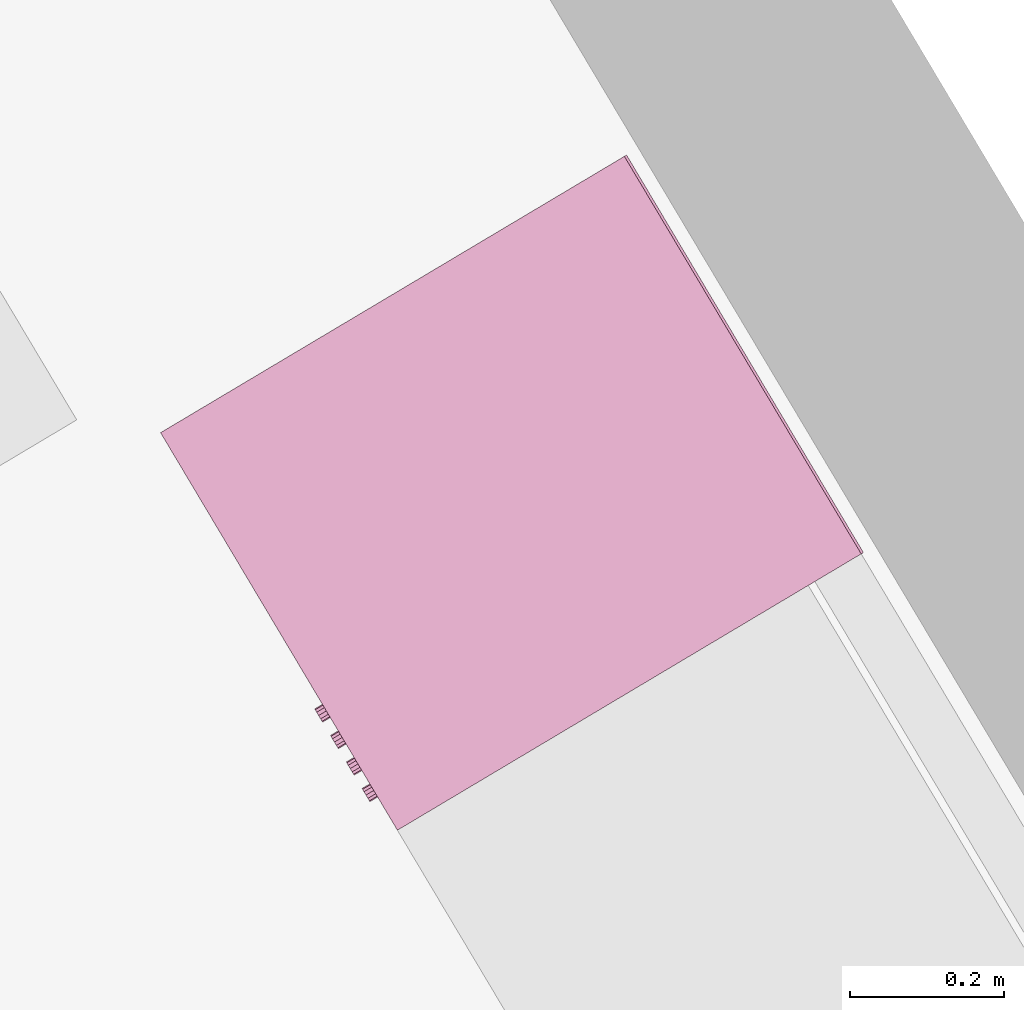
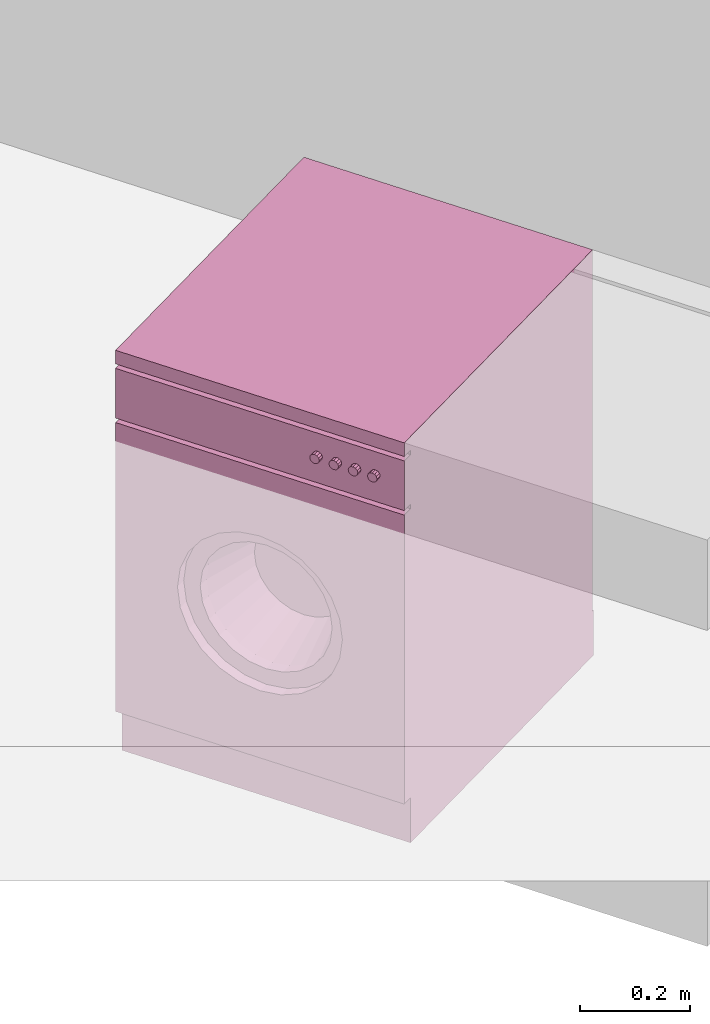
# One storey, part 168 of 195: 1 furnishing.
"""IFC2X3 building model written with IfcOpenShell, lengths in metres."""

from ifc_helpers import new_model, entity, si_unit, converted_unit, derived_unit, money_unit, direction, frame, origin_with_axes, place, context, subcontext, project, spatial, open_shell, faceted_brep, surface_model, type_object, element, save


model = new_model("IFC2X3")

# Units and contexts
model_context = context("Model", 3, precision=1e-05, world=origin_with_axes(), true_north=direction((0.0, 1.0)))
body_context = subcontext(model_context, "Body", "Model", "MODEL_VIEW")
ifc_project = project(units=[si_unit("LENGTHUNIT", "METRE"), si_unit("AREAUNIT", "SQUARE_METRE"), si_unit("VOLUMEUNIT", "CUBIC_METRE"), converted_unit("PLANEANGLEUNIT", "DEGREE", entity("IfcPlaneAngleMeasure", 0.0174532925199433), si_unit("PLANEANGLEUNIT", "RADIAN"), dimensions=[0, 0, 0, 0, 0, 0, 0]), money_unit("CHF"), converted_unit("TIMEUNIT", "Year", entity("IfcTimeMeasure", 31557600.0), si_unit("TIMEUNIT", "SECOND"), dimensions=[0, 0, 1, 0, 0, 0, 0]), si_unit("MASSUNIT", "GRAM", prefix="KILO"), si_unit("THERMODYNAMICTEMPERATUREUNIT", "DEGREE_CELSIUS"), si_unit("LUMINOUSINTENSITYUNIT", "LUMEN"), si_unit("ENERGYUNIT", "JOULE", prefix="MEGA"), derived_unit("THERMALCONDUCTANCEUNIT", [(si_unit("POWERUNIT", "WATT"), 1), (si_unit("LENGTHUNIT", "METRE"), -1), (si_unit("THERMODYNAMICTEMPERATUREUNIT", "KELVIN"), -1)]), derived_unit("SPECIFICHEATCAPACITYUNIT", [(si_unit("ENERGYUNIT", "JOULE"), 1), (si_unit("MASSUNIT", "GRAM", prefix="KILO"), -1), (si_unit("THERMODYNAMICTEMPERATUREUNIT", "KELVIN"), -1)]), derived_unit("MASSDENSITYUNIT", [(si_unit("MASSUNIT", "GRAM", prefix="KILO"), 1), (si_unit("VOLUMEUNIT", "CUBIC_METRE"), -1)])], contexts=[model_context])

# Site, building, storey
site_placement = place(None, origin_with_axes())
site = spatial("IfcSite", under=ifc_project, at=site_placement, Name="Site", CompositionType="ELEMENT")
building_placement = place(site_placement, origin_with_axes())
building = spatial("IfcBuilding", under=site, at=building_placement, Name="Bâtiment", CompositionType="ELEMENT")
storey_placement = place(building_placement, origin_with_axes())
storey = spatial("IfcBuildingStorey", under=building, at=storey_placement, Name="rdc", CompositionType="ELEMENT", Elevation=0.0)

# Furnishing
furnishing_element_type = type_object("IfcFurnishingElementType", Name="Machine à laver")
furnishing_placement = place(storey_placement, frame((9548.369872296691, -1050.986734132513, 57.0), z_axis=(0.0, 0.0, 1.0), x_axis=(0.5118298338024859, -0.8590868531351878, 0.0)))
element("IfcFurnishingElement", 1, at=furnishing_placement, inside=storey, type_object=furnishing_element_type, Name="Obj.-019", context=body_context, shape_type="SurfaceModel", body=[
    faceted_brep([(0.0, 0.02333333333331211, 0.1000000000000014), (0.0, 0.0, 0.1000000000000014), (-0.6000000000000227, 0.0, 0.1000000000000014), (-0.599999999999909, 0.0233333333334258, 0.1000000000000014), (0.0, 0.02333333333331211, 0.740000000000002), (0.0, 0.0, 0.740000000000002), (-0.6000000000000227, 0.0, 0.740000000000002), (-0.4714285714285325, 0.0, 0.4200000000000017), (-0.4655872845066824, 0.0, 0.4643689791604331), (-0.4484614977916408, 0.0, 0.5057142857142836), (-0.4212183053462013, 0.0, 0.5412183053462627), (-0.3857142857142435, 0.0, 0.5684614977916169), (-0.3443689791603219, 0.0, 0.5855872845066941), (-0.2999999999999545, 0.0, 0.5914285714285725), (-0.2556310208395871, 0.0, 0.5855872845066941), (-0.2142857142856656, 0.0, 0.5684614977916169), (-0.1787816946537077, 0.0, 0.5412183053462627), (-0.1515385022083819, 0.0, 0.5057142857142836), (-0.1344127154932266, 0.0, 0.4643689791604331), (-0.1285714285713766, 0.0, 0.4200000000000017), (-0.1344127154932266, 0.0, 0.3756310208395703), (-0.1515385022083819, 0.0, 0.3342857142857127), (-0.1787816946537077, 0.0, 0.2987816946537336), (-0.2142857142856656, 0.0, 0.2715385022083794), (-0.2556310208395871, 0.0, 0.2544127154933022), (-0.2999999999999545, 0.0, 0.2485714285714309), (-0.3443689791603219, 0.0, 0.2544127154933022), (-0.3857142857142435, 0.0, 0.2715385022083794), (-0.4212183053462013, 0.0, 0.2987816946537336), (-0.4484614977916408, 0.0, 0.3342857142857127), (-0.4655872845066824, 0.0, 0.3756310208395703), (-0.599999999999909, 0.0233333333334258, 0.740000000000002), (-0.4714285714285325, 0.0233333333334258, 0.4200000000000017), (-0.4655872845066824, 0.02333333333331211, 0.3756310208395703), (-0.4484614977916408, 0.02333333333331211, 0.3342857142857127), (-0.4212183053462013, 0.0233333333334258, 0.2987816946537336), (-0.3857142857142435, 0.02333333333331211, 0.2715385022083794), (-0.3443689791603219, 0.02333333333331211, 0.2544127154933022), (-0.2999999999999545, 0.0233333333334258, 0.2485714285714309), (-0.2556310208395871, 0.0233333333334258, 0.2544127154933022), (-0.2142857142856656, 0.0233333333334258, 0.2715385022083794), (-0.1787816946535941, 0.0233333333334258, 0.2987816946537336), (-0.1515385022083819, 0.0233333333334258, 0.3342857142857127), (-0.1344127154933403, 0.0233333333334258, 0.3756310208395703), (-0.1285714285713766, 0.02333333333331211, 0.4200000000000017), (-0.1344127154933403, 0.0233333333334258, 0.4643689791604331), (-0.1515385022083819, 0.0233333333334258, 0.5057142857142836), (-0.1787816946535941, 0.0233333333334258, 0.5412183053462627), (-0.2142857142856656, 0.0233333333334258, 0.5684614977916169), (-0.2556310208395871, 0.0233333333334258, 0.5855872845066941), (-0.2999999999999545, 0.0233333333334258, 0.5914285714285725), (-0.3443689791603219, 0.02333333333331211, 0.5855872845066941), (-0.3857142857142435, 0.02333333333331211, 0.5684614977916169), (-0.4212183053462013, 0.0233333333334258, 0.5412183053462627), (-0.4484614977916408, 0.02333333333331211, 0.5057142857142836), (-0.4655872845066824, 0.02333333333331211, 0.4643689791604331)], [[[0, 1, 2, 3]], [[4, 5, 1, 0]], [[1, 5, 6, 2], [7, 8, 9, 10, 11, 12, 13, 14, 15, 16, 17, 18, 19, 20, 21, 22, 23, 24, 25, 26, 27, 28, 29, 30]], [[3, 2, 6, 31]], [[0, 3, 31, 4], [32, 33, 34, 35, 36, 37, 38, 39, 40, 41, 42, 43, 44, 45, 46, 47, 48, 49, 50, 51, 52, 53, 54, 55]], [[31, 6, 5, 4]], [[55, 8, 7, 32]], [[54, 9, 8, 55]], [[53, 10, 9, 54]], [[52, 11, 10, 53]], [[51, 12, 11, 52]], [[50, 13, 12, 51]], [[49, 14, 13, 50]], [[48, 15, 14, 49]], [[47, 16, 15, 48]], [[46, 17, 16, 47]], [[45, 18, 17, 46]], [[44, 19, 18, 45]], [[43, 20, 19, 44]], [[42, 21, 20, 43]], [[41, 22, 21, 42]], [[40, 23, 22, 41]], [[39, 24, 23, 40]], [[38, 25, 24, 39]], [[37, 26, 25, 38]], [[36, 27, 26, 37]], [[35, 28, 27, 36]], [[34, 29, 28, 35]], [[33, 30, 29, 34]], [[32, 7, 30, 33]]]),
    faceted_brep([(-0.4714285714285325, 0.04666666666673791, 0.4200000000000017), (-0.4714285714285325, 0.0233333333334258, 0.4200000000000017), (-0.4655872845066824, 0.02333333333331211, 0.4643689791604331), (-0.4655872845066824, 0.04666666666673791, 0.4643689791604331), (-0.4655872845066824, 0.04666666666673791, 0.3756310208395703), (-0.4655872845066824, 0.02333333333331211, 0.3756310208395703), (-0.4484614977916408, 0.02333333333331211, 0.3342857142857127), (-0.4212183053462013, 0.0233333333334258, 0.2987816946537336), (-0.3857142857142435, 0.02333333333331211, 0.2715385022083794), (-0.3443689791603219, 0.02333333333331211, 0.2544127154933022), (-0.2999999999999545, 0.0233333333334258, 0.2485714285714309), (-0.2556310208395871, 0.0233333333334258, 0.2544127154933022), (-0.2142857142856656, 0.0233333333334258, 0.2715385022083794), (-0.1787816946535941, 0.0233333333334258, 0.2987816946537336), (-0.1515385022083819, 0.0233333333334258, 0.3342857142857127), (-0.1344127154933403, 0.0233333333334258, 0.3756310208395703), (-0.1285714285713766, 0.02333333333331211, 0.4200000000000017), (-0.1344127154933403, 0.0233333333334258, 0.4643689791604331), (-0.1515385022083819, 0.0233333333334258, 0.5057142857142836), (-0.1787816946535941, 0.0233333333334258, 0.5412183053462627), (-0.2142857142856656, 0.0233333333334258, 0.5684614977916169), (-0.2556310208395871, 0.0233333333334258, 0.5855872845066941), (-0.2999999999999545, 0.0233333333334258, 0.5914285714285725), (-0.3443689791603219, 0.02333333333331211, 0.5855872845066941), (-0.3857142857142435, 0.02333333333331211, 0.5684614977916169), (-0.4212183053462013, 0.0233333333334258, 0.5412183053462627), (-0.4484614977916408, 0.02333333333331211, 0.5057142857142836), (-0.4371428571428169, 0.0233333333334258, 0.4200000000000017), (-0.4324698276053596, 0.0233333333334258, 0.4554951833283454), (-0.4187691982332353, 0.0233333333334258, 0.4885714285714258), (-0.3969746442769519, 0.0233333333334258, 0.5169746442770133), (-0.3685714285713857, 0.0233333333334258, 0.5387691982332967), (-0.3354951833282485, 0.0233333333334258, 0.552469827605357), (-0.2999999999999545, 0.0233333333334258, 0.5571428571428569), (-0.2645048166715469, 0.02333333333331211, 0.552469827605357), (-0.2314285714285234, 0.0233333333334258, 0.5387691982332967), (-0.2030253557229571, 0.02333333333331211, 0.5169746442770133), (-0.1812308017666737, 0.02333333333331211, 0.4885714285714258), (-0.1675301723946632, 0.02333333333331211, 0.4554951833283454), (-0.1628571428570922, 0.02333333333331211, 0.4200000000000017), (-0.1675301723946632, 0.02333333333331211, 0.3845048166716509), (-0.1812308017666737, 0.02333333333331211, 0.3514285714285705), (-0.2030253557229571, 0.02333333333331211, 0.3230253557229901), (-0.2314285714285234, 0.0233333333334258, 0.3012308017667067), (-0.2645048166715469, 0.02333333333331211, 0.2875301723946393), (-0.2999999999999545, 0.0233333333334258, 0.2828571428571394), (-0.3354951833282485, 0.0233333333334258, 0.2875301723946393), (-0.3685714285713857, 0.0233333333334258, 0.3012308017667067), (-0.3969746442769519, 0.0233333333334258, 0.3230253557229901), (-0.4187691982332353, 0.0233333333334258, 0.3514285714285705), (-0.4324698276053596, 0.0233333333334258, 0.3845048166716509), (-0.4484614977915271, 0.04666666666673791, 0.5057142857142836), (-0.4212183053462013, 0.04666666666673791, 0.5412183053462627), (-0.3857142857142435, 0.04666666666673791, 0.5684614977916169), (-0.3443689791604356, 0.04666666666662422, 0.5855872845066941), (-0.2999999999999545, 0.04666666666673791, 0.5914285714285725), (-0.2556310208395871, 0.04666666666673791, 0.5855872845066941), (-0.2142857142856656, 0.04666666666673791, 0.5684614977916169), (-0.1787816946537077, 0.04666666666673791, 0.5412183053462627), (-0.1515385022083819, 0.04666666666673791, 0.5057142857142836), (-0.1344127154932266, 0.04666666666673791, 0.4643689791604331), (-0.1285714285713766, 0.04666666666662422, 0.4200000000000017), (-0.1344127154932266, 0.04666666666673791, 0.3756310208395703), (-0.1515385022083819, 0.04666666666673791, 0.3342857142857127), (-0.1787816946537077, 0.04666666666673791, 0.2987816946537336), (-0.2142857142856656, 0.04666666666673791, 0.2715385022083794), (-0.2556310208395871, 0.04666666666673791, 0.2544127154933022), (-0.2999999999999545, 0.04666666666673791, 0.2485714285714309), (-0.3443689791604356, 0.04666666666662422, 0.2544127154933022), (-0.3857142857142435, 0.04666666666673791, 0.2715385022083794), (-0.4212183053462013, 0.04666666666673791, 0.2987816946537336), (-0.4484614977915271, 0.04666666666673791, 0.3342857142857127), (-0.4371428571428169, 0.04666666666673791, 0.4200000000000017), (-0.4324698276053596, 0.04666666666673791, 0.3845048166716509), (-0.4187691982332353, 0.04666666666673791, 0.3514285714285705), (-0.3969746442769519, 0.04666666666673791, 0.3230253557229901), (-0.3685714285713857, 0.04666666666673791, 0.3012308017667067), (-0.3354951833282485, 0.0466666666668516, 0.2875301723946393), (-0.2999999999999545, 0.04666666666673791, 0.2828571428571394), (-0.2645048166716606, 0.04666666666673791, 0.2875301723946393), (-0.2314285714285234, 0.04666666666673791, 0.3012308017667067), (-0.2030253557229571, 0.04666666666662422, 0.3230253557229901), (-0.1812308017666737, 0.04666666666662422, 0.3514285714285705), (-0.1675301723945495, 0.04666666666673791, 0.3845048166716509), (-0.1628571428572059, 0.04666666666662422, 0.4200000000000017), (-0.1675301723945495, 0.04666666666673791, 0.4554951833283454), (-0.1812308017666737, 0.04666666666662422, 0.4885714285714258), (-0.2030253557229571, 0.04666666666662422, 0.5169746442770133), (-0.2314285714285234, 0.04666666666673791, 0.5387691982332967), (-0.2645048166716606, 0.04666666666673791, 0.552469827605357), (-0.2999999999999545, 0.04666666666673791, 0.5571428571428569), (-0.3354951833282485, 0.0466666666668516, 0.552469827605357), (-0.3685714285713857, 0.04666666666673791, 0.5387691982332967), (-0.3969746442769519, 0.04666666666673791, 0.5169746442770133), (-0.4187691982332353, 0.04666666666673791, 0.4885714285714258), (-0.4324698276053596, 0.04666666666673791, 0.4554951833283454)], [[[0, 1, 2, 3]], [[4, 5, 1, 0]], [[1, 5, 6, 7, 8, 9, 10, 11, 12, 13, 14, 15, 16, 17, 18, 19, 20, 21, 22, 23, 24, 25, 26, 2], [27, 28, 29, 30, 31, 32, 33, 34, 35, 36, 37, 38, 39, 40, 41, 42, 43, 44, 45, 46, 47, 48, 49, 50]], [[3, 2, 26, 51]], [[0, 3, 51, 52, 53, 54, 55, 56, 57, 58, 59, 60, 61, 62, 63, 64, 65, 66, 67, 68, 69, 70, 71, 4], [72, 73, 74, 75, 76, 77, 78, 79, 80, 81, 82, 83, 84, 85, 86, 87, 88, 89, 90, 91, 92, 93, 94, 95]], [[71, 6, 5, 4]], [[70, 7, 6, 71]], [[69, 8, 7, 70]], [[68, 9, 8, 69]], [[67, 10, 9, 68]], [[66, 11, 10, 67]], [[65, 12, 11, 66]], [[64, 13, 12, 65]], [[63, 14, 13, 64]], [[62, 15, 14, 63]], [[61, 16, 15, 62]], [[60, 17, 16, 61]], [[59, 18, 17, 60]], [[58, 19, 18, 59]], [[57, 20, 19, 58]], [[56, 21, 20, 57]], [[55, 22, 21, 56]], [[54, 23, 22, 55]], [[53, 24, 23, 54]], [[52, 25, 24, 53]], [[51, 26, 25, 52]], [[95, 28, 27, 72]], [[94, 29, 28, 95]], [[93, 30, 29, 94]], [[92, 31, 30, 93]], [[91, 32, 31, 92]], [[90, 33, 32, 91]], [[89, 34, 33, 90]], [[88, 35, 34, 89]], [[87, 36, 35, 88]], [[86, 37, 36, 87]], [[85, 38, 37, 86]], [[84, 39, 38, 85]], [[83, 40, 39, 84]], [[82, 41, 40, 83]], [[81, 42, 41, 82]], [[80, 43, 42, 81]], [[79, 44, 43, 80]], [[78, 45, 44, 79]], [[77, 46, 45, 78]], [[76, 47, 46, 77]], [[75, 48, 47, 76]], [[74, 49, 48, 75]], [[73, 50, 49, 74]], [[72, 27, 50, 73]]]),
    surface_model("IfcShellBasedSurfaceModel", [(-0.2645048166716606, 0.04666666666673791, 0.552469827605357), (-0.2733786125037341, 0.1633333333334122, 0.51935237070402), (-0.2999999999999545, 0.1633333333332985, 0.5228571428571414), (-0.2999999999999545, 0.04666666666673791, 0.5571428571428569), (-0.2314285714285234, 0.04666666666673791, 0.5387691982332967), (-0.2485714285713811, 0.1633333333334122, 0.5090768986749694), (-0.2272690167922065, 0.1633333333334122, 0.4927309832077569), (-0.2109231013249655, 0.1633333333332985, 0.471428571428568), (-0.200647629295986, 0.1633333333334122, 0.4466213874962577), (-0.1971428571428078, 0.1633333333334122, 0.4200000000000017), (-0.200647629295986, 0.1633333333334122, 0.3933786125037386), (-0.2109231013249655, 0.1633333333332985, 0.3685714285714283), (-0.2272690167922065, 0.1633333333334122, 0.3472690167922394), (-0.2485714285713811, 0.1633333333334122, 0.3309231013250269), (-0.2733786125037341, 0.1633333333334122, 0.3206476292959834), (-0.2999999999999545, 0.1633333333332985, 0.317142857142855), (-0.326621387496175, 0.1633333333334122, 0.3206476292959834), (-0.3514285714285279, 0.1633333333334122, 0.3309231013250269), (-0.3727309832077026, 0.1633333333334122, 0.3472690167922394), (-0.3890768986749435, 0.1633333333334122, 0.3685714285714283), (-0.399352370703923, 0.1633333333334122, 0.3933786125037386), (-0.4028571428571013, 0.1633333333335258, 0.4200000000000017), (-0.399352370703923, 0.1633333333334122, 0.4466213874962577), (-0.3890768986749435, 0.1633333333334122, 0.471428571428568), (-0.3727309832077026, 0.1633333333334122, 0.4927309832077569), (-0.3514285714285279, 0.1633333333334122, 0.5090768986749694), (-0.326621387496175, 0.1633333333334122, 0.51935237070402), (-0.3354951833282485, 0.0466666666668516, 0.552469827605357), (-0.2030253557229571, 0.04666666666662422, 0.5169746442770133), (-0.1812308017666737, 0.04666666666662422, 0.4885714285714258), (-0.1675301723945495, 0.04666666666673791, 0.4554951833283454), (-0.1628571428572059, 0.04666666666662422, 0.4200000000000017), (-0.1675301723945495, 0.04666666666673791, 0.3845048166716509), (-0.1812308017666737, 0.04666666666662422, 0.3514285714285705), (-0.2030253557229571, 0.04666666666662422, 0.3230253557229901), (-0.2314285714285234, 0.04666666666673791, 0.3012308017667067), (-0.2645048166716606, 0.04666666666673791, 0.2875301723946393), (-0.2999999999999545, 0.04666666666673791, 0.2828571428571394), (-0.3354951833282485, 0.0466666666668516, 0.2875301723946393), (-0.3685714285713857, 0.04666666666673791, 0.3012308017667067), (-0.3969746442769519, 0.04666666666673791, 0.3230253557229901), (-0.4187691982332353, 0.04666666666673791, 0.3514285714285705), (-0.4324698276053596, 0.04666666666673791, 0.3845048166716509), (-0.4371428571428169, 0.04666666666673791, 0.4200000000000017), (-0.4324698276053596, 0.04666666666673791, 0.4554951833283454), (-0.4187691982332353, 0.04666666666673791, 0.4885714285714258), (-0.3969746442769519, 0.04666666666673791, 0.5169746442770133), (-0.3685714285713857, 0.04666666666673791, 0.5387691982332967)], [open_shell([[[0, 1, 2, 3]], [[4, 5, 1, 0]], [[2, 1, 5, 6, 7, 8, 9, 10, 11, 12, 13, 14, 15, 16, 17, 18, 19, 20, 21, 22, 23, 24, 25, 26]], [[3, 2, 26, 27]], [[28, 6, 5, 4]], [[29, 7, 6, 28]], [[30, 8, 7, 29]], [[31, 9, 8, 30]], [[32, 10, 9, 31]], [[33, 11, 10, 32]], [[34, 12, 11, 33]], [[35, 13, 12, 34]], [[36, 14, 13, 35]], [[37, 15, 14, 36]], [[38, 16, 15, 37]], [[39, 17, 16, 38]], [[40, 18, 17, 39]], [[41, 19, 18, 40]], [[42, 20, 19, 41]], [[43, 21, 20, 42]], [[44, 22, 21, 43]], [[45, 23, 22, 44]], [[46, 24, 23, 45]], [[47, 25, 24, 46]], [[27, 26, 25, 47]]])]),
    surface_model("IfcShellBasedSurfaceModel", [(0.0, 0.02333333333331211, 0.1000000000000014), (0.0, 0.7000000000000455, 0.1000000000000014), (0.0, 0.7000000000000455, 0.8699999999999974), (0.0, 0.02333333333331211, 0.8699999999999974)], [open_shell([[[0, 1, 2, 3]]])]),
    surface_model("IfcShellBasedSurfaceModel", [(-0.599999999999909, 0.0233333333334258, 0.1000000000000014), (-0.599999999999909, 0.7000000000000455, 0.1000000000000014), (-0.599999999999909, 0.7000000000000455, 0.8699999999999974), (-0.599999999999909, 0.0233333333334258, 0.8699999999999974)], [open_shell([[[0, 1, 2, 3]]])]),
    surface_model("IfcShellBasedSurfaceModel", [(0.0, 0.7000000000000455, 0.1000000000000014), (-0.599999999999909, 0.7000000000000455, 0.1000000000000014), (-0.599999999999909, 0.7000000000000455, 0.8699999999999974), (0.0, 0.7000000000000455, 0.8699999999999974)], [open_shell([[[0, 1, 2, 3]]])]),
    faceted_brep([(0.0, 0.02333333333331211, 0.0), (0.0, 0.02333333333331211, 0.1000000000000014), (-0.599999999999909, 0.0233333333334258, 0.1000000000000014), (-0.599999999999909, 0.0233333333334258, 0.0), (0.0, 0.7033333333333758, 0.0), (0.0, 0.7033333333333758, 0.1000000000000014), (-0.6000000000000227, 0.7033333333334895, 0.1000000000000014), (-0.6000000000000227, 0.7033333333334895, 0.0)], [[[0, 1, 2, 3]], [[4, 5, 1, 0]], [[1, 5, 6, 2]], [[3, 2, 6, 7]], [[0, 3, 7, 4]], [[7, 6, 5, 4]]]),
    faceted_brep([(0.0, 0.02333333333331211, 0.75), (0.0, 0.0, 0.75), (-0.6000000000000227, 0.0, 0.75), (-0.599999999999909, 0.0233333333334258, 0.75), (0.0, 0.02333333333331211, 0.8599999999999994), (0.0, 0.0, 0.8599999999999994), (-0.6000000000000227, 0.0, 0.8599999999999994), (-0.599999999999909, 0.0233333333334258, 0.8599999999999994)], [[[0, 1, 2, 3]], [[4, 5, 1, 0]], [[1, 5, 6, 2]], [[3, 2, 6, 7]], [[0, 3, 7, 4]], [[7, 6, 5, 4]]]),
    surface_model("IfcShellBasedSurfaceModel", [(0.0, 0.02333333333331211, 0.7383333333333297), (-0.599999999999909, 0.0233333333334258, 0.7383333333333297), (-0.599999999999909, 0.0233333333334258, 0.8683333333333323), (0.0, 0.02333333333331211, 0.8683333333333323)], [open_shell([[[0, 1, 2, 3]]])]),
    faceted_brep([(0.0, 0.0, 0.8699999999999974), (0.0, 0.0, 0.8999999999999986), (-0.6000000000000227, 0.0, 0.8999999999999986), (-0.6000000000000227, 0.0, 0.8699999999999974), (0.0, 0.7000000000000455, 0.8699999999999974), (0.0, 0.7000000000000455, 0.8999999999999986), (-0.599999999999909, 0.7000000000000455, 0.8999999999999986), (-0.599999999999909, 0.7000000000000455, 0.8699999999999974)], [[[0, 1, 2, 3]], [[4, 5, 1, 0]], [[1, 5, 6, 2]], [[3, 2, 6, 7]], [[0, 3, 7, 4]], [[7, 6, 5, 4]]]),
    faceted_brep([(-0.06866025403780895, 0.0, 0.8049999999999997), (-0.06999999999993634, 0.0, 0.8100000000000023), (-0.06866025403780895, 0.0, 0.8149999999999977), (-0.06499999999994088, 0.0, 0.8186602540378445), (-0.05999999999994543, 0.0, 0.8200000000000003), (-0.05499999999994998, 0.0, 0.8186602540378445), (-0.05133974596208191, 0.0, 0.8149999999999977), (-0.04999999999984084, 0.0, 0.8100000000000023), (-0.05133974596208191, 0.0, 0.8049999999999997), (-0.05499999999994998, 0.0, 0.801339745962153), (-0.05999999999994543, 0.0, 0.7999999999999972), (-0.06499999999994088, 0.0, 0.801339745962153), (-0.06866025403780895, -0.01166666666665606, 0.8049999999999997), (-0.06999999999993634, -0.01166666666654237, 0.8100000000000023), (-0.06866025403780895, -0.01166666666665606, 0.8149999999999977), (-0.06499999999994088, -0.01166666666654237, 0.8186602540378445), (-0.05999999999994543, -0.01166666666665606, 0.8200000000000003), (-0.05499999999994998, -0.01166666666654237, 0.8186602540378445), (-0.05133974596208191, -0.01166666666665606, 0.8149999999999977), (-0.04999999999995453, -0.01166666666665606, 0.8100000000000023), (-0.05133974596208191, -0.01166666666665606, 0.8049999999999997), (-0.05499999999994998, -0.01166666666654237, 0.801339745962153), (-0.05999999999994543, -0.01166666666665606, 0.7999999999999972), (-0.06499999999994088, -0.01166666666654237, 0.801339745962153)], [[[0, 1, 2, 3, 4, 5, 6, 7, 8, 9, 10, 11]], [[0, 12, 13, 1]], [[1, 13, 14, 2]], [[2, 14, 15, 3]], [[3, 15, 16, 4]], [[4, 16, 17, 5]], [[5, 17, 18, 6]], [[6, 18, 19, 7]], [[7, 19, 20, 8]], [[8, 20, 21, 9]], [[9, 21, 22, 10]], [[10, 22, 23, 11]], [[11, 23, 12, 0]], [[12, 23, 22, 21, 20, 19, 18, 17, 16, 15, 14, 13]]]),
    faceted_brep([(-0.1086602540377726, 0.0, 0.8049999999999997), (-0.1099999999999, 0.0, 0.8100000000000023), (-0.1086602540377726, 0.0, 0.8149999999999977), (-0.1049999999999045, 0.0, 0.8186602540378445), (-0.09999999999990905, 0.0, 0.8200000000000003), (-0.0949999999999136, 0.0, 0.8186602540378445), (-0.09133974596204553, 0.0, 0.8149999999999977), (-0.08999999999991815, 0.0, 0.8100000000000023), (-0.09133974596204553, 0.0, 0.8049999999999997), (-0.0949999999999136, 0.0, 0.801339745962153), (-0.09999999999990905, 0.0, 0.7999999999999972), (-0.1049999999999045, 0.0, 0.801339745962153), (-0.1086602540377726, -0.01166666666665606, 0.8049999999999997), (-0.1100000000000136, -0.01166666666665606, 0.8100000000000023), (-0.1086602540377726, -0.01166666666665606, 0.8149999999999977), (-0.1050000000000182, -0.01166666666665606, 0.8186602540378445), (-0.09999999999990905, -0.01166666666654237, 0.8200000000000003), (-0.0949999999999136, -0.01166666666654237, 0.8186602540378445), (-0.09133974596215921, -0.01166666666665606, 0.8149999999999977), (-0.09000000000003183, -0.01166666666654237, 0.8100000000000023), (-0.09133974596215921, -0.01166666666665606, 0.8049999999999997), (-0.0949999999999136, -0.01166666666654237, 0.801339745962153), (-0.09999999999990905, -0.01166666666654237, 0.7999999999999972), (-0.1050000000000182, -0.01166666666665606, 0.801339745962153)], [[[0, 1, 2, 3, 4, 5, 6, 7, 8, 9, 10, 11]], [[0, 12, 13, 1]], [[1, 13, 14, 2]], [[2, 14, 15, 3]], [[3, 15, 16, 4]], [[4, 16, 17, 5]], [[5, 17, 18, 6]], [[6, 18, 19, 7]], [[7, 19, 20, 8]], [[8, 20, 21, 9]], [[9, 21, 22, 10]], [[10, 22, 23, 11]], [[11, 23, 12, 0]], [[12, 23, 22, 21, 20, 19, 18, 17, 16, 15, 14, 13]]]),
    faceted_brep([(-0.1486602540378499, 0.0, 0.8049999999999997), (-0.1499999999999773, 0.0, 0.8100000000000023), (-0.1486602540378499, 0.0, 0.8149999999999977), (-0.1449999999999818, 0.0, 0.8186602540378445), (-0.1399999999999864, 0.0, 0.8200000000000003), (-0.1349999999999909, 0.0, 0.8186602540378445), (-0.1313397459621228, 0.0, 0.8149999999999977), (-0.1299999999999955, 0.0, 0.8100000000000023), (-0.1313397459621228, 0.0, 0.8049999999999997), (-0.1349999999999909, 0.0, 0.801339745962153), (-0.1399999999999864, 0.0, 0.7999999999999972), (-0.1449999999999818, 0.0, 0.801339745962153), (-0.1486602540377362, -0.01166666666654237, 0.8049999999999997), (-0.1499999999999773, -0.01166666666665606, 0.8100000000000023), (-0.1486602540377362, -0.01166666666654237, 0.8149999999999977), (-0.1449999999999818, -0.01166666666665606, 0.8186602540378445), (-0.1399999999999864, -0.01166666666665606, 0.8200000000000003), (-0.1349999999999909, -0.01166666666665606, 0.8186602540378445), (-0.1313397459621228, -0.01166666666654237, 0.8149999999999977), (-0.1299999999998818, -0.01166666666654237, 0.8100000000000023), (-0.1313397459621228, -0.01166666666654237, 0.8049999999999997), (-0.1349999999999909, -0.01166666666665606, 0.801339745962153), (-0.1399999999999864, -0.01166666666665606, 0.7999999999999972), (-0.1449999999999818, -0.01166666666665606, 0.801339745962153)], [[[0, 1, 2, 3, 4, 5, 6, 7, 8, 9, 10, 11]], [[0, 12, 13, 1]], [[1, 13, 14, 2]], [[2, 14, 15, 3]], [[3, 15, 16, 4]], [[4, 16, 17, 5]], [[5, 17, 18, 6]], [[6, 18, 19, 7]], [[7, 19, 20, 8]], [[8, 20, 21, 9]], [[9, 21, 22, 10]], [[10, 22, 23, 11]], [[11, 23, 12, 0]], [[12, 23, 22, 21, 20, 19, 18, 17, 16, 15, 14, 13]]]),
    faceted_brep([(-0.1886602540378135, 0.0, 0.8049999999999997), (-0.1899999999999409, 0.0, 0.8100000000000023), (-0.1886602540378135, 0.0, 0.8149999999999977), (-0.1849999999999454, 0.0, 0.8186602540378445), (-0.17999999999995, 0.0, 0.8200000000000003), (-0.1749999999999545, 0.0, 0.8186602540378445), (-0.1713397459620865, 0.0, 0.8149999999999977), (-0.1699999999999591, 0.0, 0.8100000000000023), (-0.1713397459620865, 0.0, 0.8049999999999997), (-0.1749999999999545, 0.0, 0.801339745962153), (-0.17999999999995, 0.0, 0.7999999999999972), (-0.1849999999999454, 0.0, 0.801339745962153), (-0.1886602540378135, -0.01166666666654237, 0.8049999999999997), (-0.1899999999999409, -0.01166666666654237, 0.8100000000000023), (-0.1886602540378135, -0.01166666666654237, 0.8149999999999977), (-0.1849999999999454, -0.01166666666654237, 0.8186602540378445), (-0.17999999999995, -0.01166666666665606, 0.8200000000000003), (-0.1749999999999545, -0.01166666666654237, 0.8186602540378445), (-0.1713397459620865, -0.01166666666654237, 0.8149999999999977), (-0.1699999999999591, -0.01166666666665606, 0.8100000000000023), (-0.1713397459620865, -0.01166666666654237, 0.8049999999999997), (-0.1749999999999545, -0.01166666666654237, 0.801339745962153), (-0.17999999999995, -0.01166666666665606, 0.7999999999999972), (-0.1849999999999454, -0.01166666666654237, 0.801339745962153)], [[[0, 1, 2, 3, 4, 5, 6, 7, 8, 9, 10, 11]], [[0, 12, 13, 1]], [[1, 13, 14, 2]], [[2, 14, 15, 3]], [[3, 15, 16, 4]], [[4, 16, 17, 5]], [[5, 17, 18, 6]], [[6, 18, 19, 7]], [[7, 19, 20, 8]], [[8, 20, 21, 9]], [[9, 21, 22, 10]], [[10, 22, 23, 11]], [[11, 23, 12, 0]], [[12, 23, 22, 21, 20, 19, 18, 17, 16, 15, 14, 13]]]),
])

save(model, "model.ifc")
